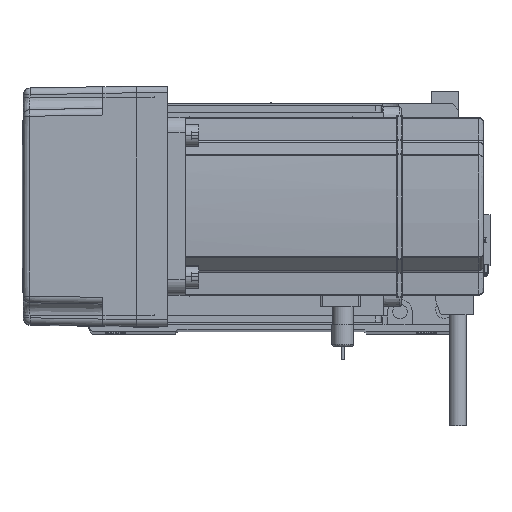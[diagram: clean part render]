
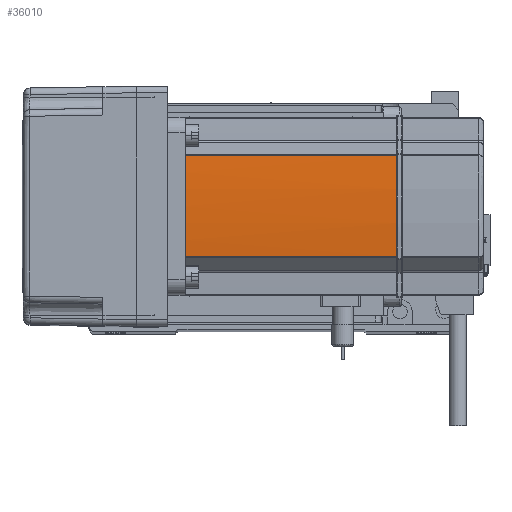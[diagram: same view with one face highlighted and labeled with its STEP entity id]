
A CAD part, top view. The second image highlights one B-rep face of the part: STEP entity #36010.
In plain terms, the highlighted cylindrical face has radius 270 mm (diameter 540 mm), a partial arc.
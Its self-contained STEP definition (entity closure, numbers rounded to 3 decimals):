
#1013 = CARTESIAN_POINT ( 'NONE',  ( -230., 0., 134. ) ) ;
#2507 = ORIENTED_EDGE ( 'NONE', *, *, #30321, .T. ) ;
#3420 = ORIENTED_EDGE ( 'NONE', *, *, #5105, .T. ) ;
#3803 = VERTEX_POINT ( 'NONE', #28920 ) ;
#5105 = EDGE_CURVE ( 'NONE', #34874, #29718, #17993, .T. ) ;
#5494 = DIRECTION ( 'NONE',  ( 0., 0., -1. ) ) ;
#7445 = DIRECTION ( 'NONE',  ( -1., 0., 0. ) ) ;
#7534 = FACE_OUTER_BOUND ( 'NONE', #22477, .T. ) ;
#8241 = EDGE_CURVE ( 'NONE', #3803, #25322, #11552, .T. ) ;
#9172 = CARTESIAN_POINT ( 'NONE',  ( 40., 0.127, 134. ) ) ;
#9843 = CARTESIAN_POINT ( 'NONE',  ( -230., 0., 58. ) ) ;
#10679 = CIRCLE ( 'NONE', #26099, 270. ) ;
#11552 = B_SPLINE_CURVE_WITH_KNOTS ( 'NONE', 3,
 ( #35251, #14106, #13520, #9172 ),
 .UNSPECIFIED., .F., .F.,
 ( 4, 4 ),
 ( 0., 1. ),
 .UNSPECIFIED. ) ;
#11764 = AXIS2_PLACEMENT_3D ( 'NONE', #9843, #5494, #27019 ) ;
#13025 = AXIS2_PLACEMENT_3D ( 'NONE', #47442, #21337, #39066 ) ;
#13520 = CARTESIAN_POINT ( 'NONE',  ( 40., 0.042, 134. ) ) ;
#13866 = VECTOR ( 'NONE', #39792, 1000. ) ;
#14106 = CARTESIAN_POINT ( 'NONE',  ( 40., -0.042, 134. ) ) ;
#17983 = CARTESIAN_POINT ( 'NONE',  ( 39.042, -22.724, 58. ) ) ;
#17993 = LINE ( 'NONE', #48186, #13866 ) ;
#21005 = VECTOR ( 'NONE', #31282, 1000. ) ;
#21337 = DIRECTION ( 'NONE',  ( 0., 0., -1. ) ) ;
#22195 = EDGE_CURVE ( 'NONE', #34874, #48940, #39647, .T. ) ;
#22477 = EDGE_LOOP ( 'NONE', ( #2507, #45291, #3420, #31911, #29870, #24581 ) ) ;
#23366 = VERTEX_POINT ( 'NONE', #52618 ) ;
#24581 = ORIENTED_EDGE ( 'NONE', *, *, #40023, .T. ) ;
#25322 = VERTEX_POINT ( 'NONE', #29274 ) ;
#26099 = AXIS2_PLACEMENT_3D ( 'NONE', #55207, #33544, #7445 ) ;
#27019 = DIRECTION ( 'NONE',  ( -1., 0., 0. ) ) ;
#27612 = CARTESIAN_POINT ( 'NONE',  ( 39.042, -22.724, 39. ) ) ;
#28604 = CYLINDRICAL_SURFACE ( 'NONE', #11764, 270. ) ;
#28920 = CARTESIAN_POINT ( 'NONE',  ( 40., -0.127, 134. ) ) ;
#29274 = CARTESIAN_POINT ( 'NONE',  ( 40., 0.127, 134. ) ) ;
#29718 = VERTEX_POINT ( 'NONE', #34044 ) ;
#29870 = ORIENTED_EDGE ( 'NONE', *, *, #8241, .F. ) ;
#30321 = EDGE_CURVE ( 'NONE', #23366, #48940, #39436, .T. ) ;
#31282 = DIRECTION ( 'NONE',  ( 0., 0., -1. ) ) ;
#31911 = ORIENTED_EDGE ( 'NONE', *, *, #50266, .T. ) ;
#33544 = DIRECTION ( 'NONE',  ( 0., 0., -1. ) ) ;
#33800 = AXIS2_PLACEMENT_3D ( 'NONE', #1013, #40837, #35733 ) ;
#34044 = CARTESIAN_POINT ( 'NONE',  ( 39.042, 22.724, 134. ) ) ;
#34874 = VERTEX_POINT ( 'NONE', #38184 ) ;
#35251 = CARTESIAN_POINT ( 'NONE',  ( 40., -0.127, 134. ) ) ;
#35733 = DIRECTION ( 'NONE',  ( -1., 0., 0. ) ) ;
#36010 = ADVANCED_FACE ( 'NONE', ( #7534 ), #28604, .T. ) ;
#38184 = CARTESIAN_POINT ( 'NONE',  ( 39.042, 22.724, 39. ) ) ;
#39066 = DIRECTION ( 'NONE',  ( -1., 0., 0. ) ) ;
#39436 = LINE ( 'NONE', #17983, #21005 ) ;
#39647 = CIRCLE ( 'NONE', #13025, 270. ) ;
#39792 = DIRECTION ( 'NONE',  ( 0., 0., 1. ) ) ;
#40023 = EDGE_CURVE ( 'NONE', #3803, #23366, #48738, .T. ) ;
#40837 = DIRECTION ( 'NONE',  ( 0., 0., -1. ) ) ;
#45291 = ORIENTED_EDGE ( 'NONE', *, *, #22195, .F. ) ;
#47442 = CARTESIAN_POINT ( 'NONE',  ( -230., 0., 39. ) ) ;
#48186 = CARTESIAN_POINT ( 'NONE',  ( 39.042, 22.724, 58. ) ) ;
#48738 = CIRCLE ( 'NONE', #33800, 270. ) ;
#48940 = VERTEX_POINT ( 'NONE', #27612 ) ;
#50266 = EDGE_CURVE ( 'NONE', #29718, #25322, #10679, .T. ) ;
#52618 = CARTESIAN_POINT ( 'NONE',  ( 39.042, -22.724, 134. ) ) ;
#55207 = CARTESIAN_POINT ( 'NONE',  ( -230., 0., 134. ) ) ;
